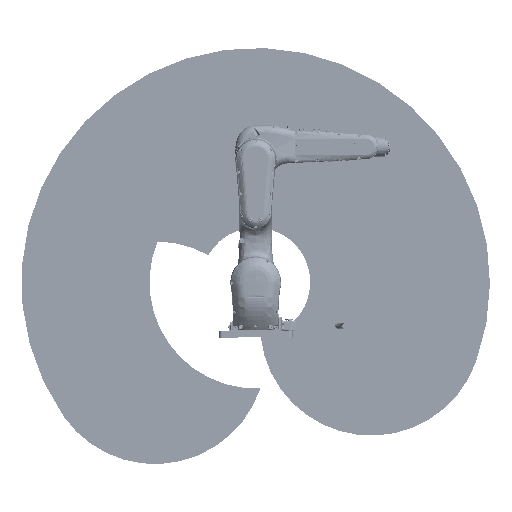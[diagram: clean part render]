
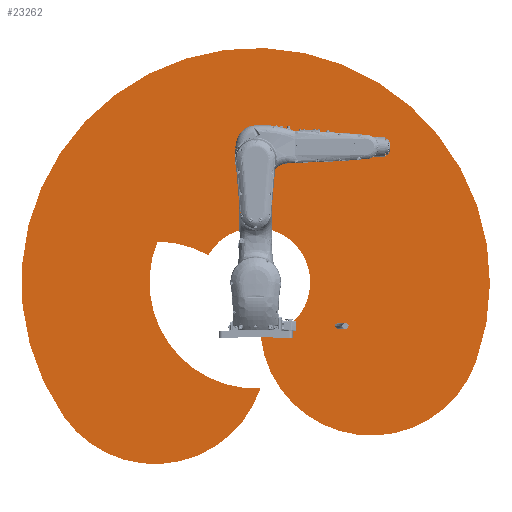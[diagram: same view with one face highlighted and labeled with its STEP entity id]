
A CAD part, front view. The second image highlights one B-rep face of the part: STEP entity #23262.
In plain terms, the highlighted planar face has unit normal (0, 0, -1) by its records, which use the part's own axes.
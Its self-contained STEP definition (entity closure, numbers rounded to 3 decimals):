
#23262=ADVANCED_FACE('',(#35372),#26950,.T.);
#26950=PLANE('',#160993);
#35372=FACE_OUTER_BOUND('',#45691,.T.);
#45691=EDGE_LOOP('',(#111742,#111743,#111744,#111745,#111746,#111747));
#70002=CIRCLE('',#160987,221.899);
#70003=CIRCLE('',#160988,452.769);
#70004=CIRCLE('',#160989,432.086);
#70005=CIRCLE('',#160990,452.769);
#70006=CIRCLE('',#160991,952.769);
#70007=CIRCLE('',#160992,452.769);
#111742=ORIENTED_EDGE('',*,*,#145301,.T.);
#111743=ORIENTED_EDGE('',*,*,#145302,.T.);
#111744=ORIENTED_EDGE('',*,*,#145303,.T.);
#111745=ORIENTED_EDGE('',*,*,#145304,.T.);
#111746=ORIENTED_EDGE('',*,*,#145305,.T.);
#111747=ORIENTED_EDGE('',*,*,#145306,.T.);
#124428=VERTEX_POINT('',#377853);
#124429=VERTEX_POINT('',#377854);
#124430=VERTEX_POINT('',#377856);
#124431=VERTEX_POINT('',#377858);
#124432=VERTEX_POINT('',#377860);
#124433=VERTEX_POINT('',#377862);
#145301=EDGE_CURVE('',#124428,#124429,#70002,.T.);
#145302=EDGE_CURVE('',#124429,#124430,#70003,.T.);
#145303=EDGE_CURVE('',#124430,#124431,#70004,.T.);
#145304=EDGE_CURVE('',#124431,#124432,#70005,.T.);
#145305=EDGE_CURVE('',#124432,#124433,#70006,.T.);
#145306=EDGE_CURVE('',#124433,#124428,#70007,.T.);
#160987=AXIS2_PLACEMENT_3D('',#377852,#200635,#200636);
#160988=AXIS2_PLACEMENT_3D('',#377855,#200637,#200638);
#160989=AXIS2_PLACEMENT_3D('',#377857,#200639,#200640);
#160990=AXIS2_PLACEMENT_3D('',#377859,#200641,#200642);
#160991=AXIS2_PLACEMENT_3D('',#377861,#200643,#200644);
#160992=AXIS2_PLACEMENT_3D('',#377863,#200645,#200646);
#160993=AXIS2_PLACEMENT_3D('',#377864,#200647,#200648);
#200635=DIRECTION('',(0.,0.,1.));
#200636=DIRECTION('',(1.,0.,0.));
#200637=DIRECTION('',(0.,0.,1.));
#200638=DIRECTION('',(1.,0.,0.));
#200639=DIRECTION('',(0.,0.,1.));
#200640=DIRECTION('',(1.,0.,0.));
#200641=DIRECTION('',(0.,0.,-1.));
#200642=DIRECTION('',(1.,0.,0.));
#200643=DIRECTION('',(0.,0.,-1.));
#200644=DIRECTION('',(1.,0.,0.));
#200645=DIRECTION('',(0.,0.,-1.));
#200646=DIRECTION('',(1.,0.,0.));
#200647=DIRECTION('',(0.,0.,-1.));
#200648=DIRECTION('',(-1.,0.,0.));
#377852=CARTESIAN_POINT('',(3248.224,2017.144,0.));
#377853=CARTESIAN_POINT('',(3268.071,1796.134,0.));
#377854=CARTESIAN_POINT('',(3055.8,2127.653,0.));
#377855=CARTESIAN_POINT('',(2838.648,1730.356,0.));
#377856=CARTESIAN_POINT('',(2849.238,2183.001,0.));
#377857=CARTESIAN_POINT('',(3248.224,2017.144,0.));
#377858=CARTESIAN_POINT('',(3267.618,1585.493,0.));
#377859=CARTESIAN_POINT('',(2838.648,1730.356,0.));
#377860=CARTESIAN_POINT('',(2467.761,1470.658,0.));
#377861=CARTESIAN_POINT('',(3248.224,2017.144,0.));
#377862=CARTESIAN_POINT('',(4143.535,1691.278,0.));
#377863=CARTESIAN_POINT('',(3718.071,1846.134,0.));
#377864=CARTESIAN_POINT('',(3483.147,1931.639,0.));
